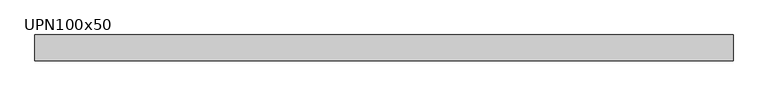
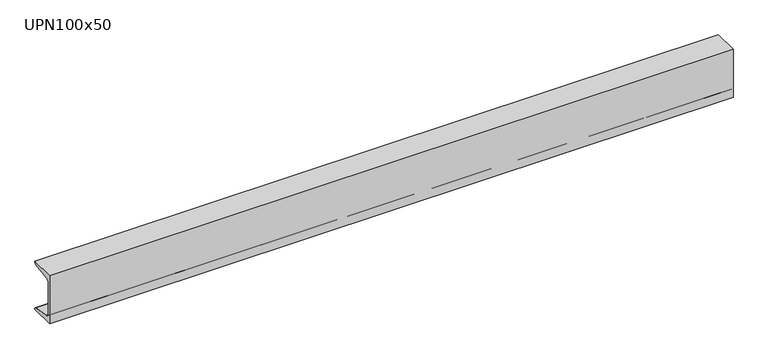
"""IFC4 building model written with IfcOpenShell, lengths in millimetres: beam geometry, M_MC Shapes : UPN100x50."""

from ifc_helpers import new_model, si_unit, point, frame, frame_2d, origin, place, context, project, spatial, polyline, circle_curve, trimmed, segment, composite_curve, outline, extrude, source, transform, mapped, element, save


def upn100x50_19d9e79e(model_context):
    return source(origin(), model_context, "Body", "SweptSolid", [
        extrude(outline(composite_curve([segment(polyline([(-10.9, 50.0), (39.1, 50.0), (39.1, 49.0253247)]), True, "CONTINUOUS"), segment(trimmed(circle_curve(frame_2d((35.15, 49.0253247)), 3.95), [point((39.1, 49.0253247))], [point((35.7993773, 45.1290689))], False, "CARTESIAN"), True, "CONTINUOUS"), segment(polyline([(35.7993773, 45.1290689), (0.2512455, 39.2043685)]), True, "CONTINUOUS"), segment(trimmed(circle_curve(frame_2d((1.55, 31.4118569)), 7.9), [point((0.2512455, 39.2043685))], [point((-6.35, 31.4118569))], True, "CARTESIAN"), True, "CONTINUOUS"), segment(polyline([(-6.35, 31.4118569), (-6.35, -31.4118569)]), True, "CONTINUOUS"), segment(trimmed(circle_curve(frame_2d((1.55, -31.4118569)), 7.9), [point((-6.35, -31.4118569))], [point((0.2512455, -39.2043685))], True, "CARTESIAN"), True, "CONTINUOUS"), segment(polyline([(0.2512455, -39.2043685), (35.7993773, -45.1290689)]), True, "CONTINUOUS"), segment(trimmed(circle_curve(frame_2d((35.15, -49.0253247)), 3.95), [point((35.7993773, -45.1290689))], [point((39.1, -49.0253247))], False, "CARTESIAN"), True, "CONTINUOUS"), segment(polyline([(39.1, -49.0253247), (39.1, -50.0), (-10.9, -50.0), (-10.9, 50.0)]), True, "CONTINUOUS")], self_intersect=False)), frame((-790.0, 0.0, 0.0), z_axis=(1.0, 0.0, 0.0), x_axis=(0.0, 1.0, 0.0)), (0.0, 0.0, 1.0), 1350.6),
    ])


if __name__ == "__main__":
    model = new_model("IFC4")
    model_context = context("Model", 3, world=origin())
    ifc_project = project(units=[si_unit("LENGTHUNIT", "METRE", prefix="MILLI")], contexts=[model_context])
    site = spatial("IfcSite", under=ifc_project)
    building = spatial("IfcBuilding", under=site)
    placement = place(None, origin())
    upn100x50_shape = upn100x50_19d9e79e(model_context)
    element("IfcBeam", 1, ObjectType="M_MC Shapes : UPN100x50", at=placement, inside=building, context=model_context, shape_type="MappedRepresentation", body=[
        mapped(upn100x50_shape, transform((0.0, 0.0, 0.0), x_axis=(1.0, 0.0, 0.0), y_axis=(0.0, 1.0, 0.0), z_axis=(0.0, 0.0, 1.0))),
    ])
    save(model, "model.ifc")
